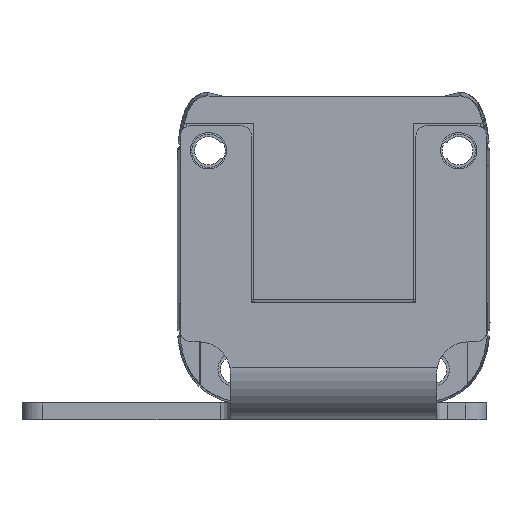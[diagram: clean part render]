
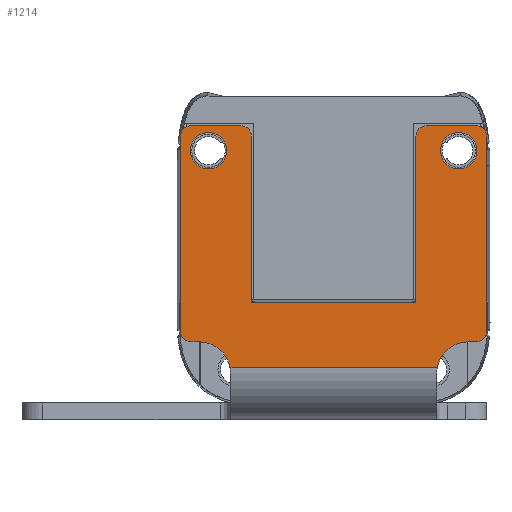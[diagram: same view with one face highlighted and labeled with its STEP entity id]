
A CAD part, front view. The second image highlights one B-rep face of the part: STEP entity #1214.
In plain terms, the highlighted planar face has unit normal (0, -1, 0).
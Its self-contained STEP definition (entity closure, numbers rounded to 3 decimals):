
#1214=ADVANCED_FACE('',(#1904,#1905,#1906),#1492,.T.);
#1492=PLANE('',#9447);
#1797=CIRCLE('',#9437,3.);
#1798=CIRCLE('',#9438,1.);
#1799=CIRCLE('',#9439,1.);
#1800=CIRCLE('',#9440,1.);
#1801=CIRCLE('',#9441,1.);
#1802=CIRCLE('',#9442,1.);
#1803=CIRCLE('',#9443,1.);
#1804=CIRCLE('',#9444,3.);
#1805=CIRCLE('',#9445,1.75);
#1806=CIRCLE('',#9446,1.75);
#1904=FACE_BOUND('',#2370,.T.);
#1905=FACE_BOUND('',#2371,.T.);
#1906=FACE_BOUND('',#2372,.T.);
#2370=EDGE_LOOP('',(#4747,#4748,#4749,#4750,#4751,#4752,#4753,#4754,#4755,
#4756,#4757,#4758,#4759,#4760,#4761,#4762,#4763,#4764));
#2371=EDGE_LOOP('',(#4765));
#2372=EDGE_LOOP('',(#4766));
#4747=ORIENTED_EDGE('',*,*,#6984,.T.);
#4748=ORIENTED_EDGE('',*,*,#6985,.F.);
#4749=ORIENTED_EDGE('',*,*,#6986,.T.);
#4750=ORIENTED_EDGE('',*,*,#6987,.T.);
#4751=ORIENTED_EDGE('',*,*,#6988,.T.);
#4752=ORIENTED_EDGE('',*,*,#6989,.T.);
#4753=ORIENTED_EDGE('',*,*,#6990,.T.);
#4754=ORIENTED_EDGE('',*,*,#6991,.F.);
#4755=ORIENTED_EDGE('',*,*,#6992,.F.);
#4756=ORIENTED_EDGE('',*,*,#6993,.T.);
#4757=ORIENTED_EDGE('',*,*,#6994,.T.);
#4758=ORIENTED_EDGE('',*,*,#6995,.F.);
#4759=ORIENTED_EDGE('',*,*,#6996,.T.);
#4760=ORIENTED_EDGE('',*,*,#6997,.F.);
#4761=ORIENTED_EDGE('',*,*,#6998,.T.);
#4762=ORIENTED_EDGE('',*,*,#6999,.T.);
#4763=ORIENTED_EDGE('',*,*,#7000,.T.);
#4764=ORIENTED_EDGE('',*,*,#7001,.T.);
#4765=ORIENTED_EDGE('',*,*,#7002,.F.);
#4766=ORIENTED_EDGE('',*,*,#7003,.T.);
#5758=VERTEX_POINT('',#15425);
#5759=VERTEX_POINT('',#15426);
#5760=VERTEX_POINT('',#15428);
#5761=VERTEX_POINT('',#15430);
#5762=VERTEX_POINT('',#15432);
#5763=VERTEX_POINT('',#15434);
#5764=VERTEX_POINT('',#15436);
#5765=VERTEX_POINT('',#15438);
#5766=VERTEX_POINT('',#15440);
#5767=VERTEX_POINT('',#15442);
#5768=VERTEX_POINT('',#15444);
#5769=VERTEX_POINT('',#15446);
#5770=VERTEX_POINT('',#15448);
#5771=VERTEX_POINT('',#15450);
#5772=VERTEX_POINT('',#15452);
#5773=VERTEX_POINT('',#15454);
#5774=VERTEX_POINT('',#15456);
#5775=VERTEX_POINT('',#15458);
#5776=VERTEX_POINT('',#15461);
#5777=VERTEX_POINT('',#15463);
#6984=EDGE_CURVE('',#5758,#5759,#1797,.T.);
#6985=EDGE_CURVE('',#5760,#5759,#7863,.T.);
#6986=EDGE_CURVE('',#5760,#5761,#1798,.T.);
#6987=EDGE_CURVE('',#5761,#5762,#7864,.T.);
#6988=EDGE_CURVE('',#5762,#5763,#1799,.T.);
#6989=EDGE_CURVE('',#5763,#5764,#7865,.T.);
#6990=EDGE_CURVE('',#5764,#5765,#1800,.T.);
#6991=EDGE_CURVE('',#5766,#5765,#7866,.T.);
#6992=EDGE_CURVE('',#5767,#5766,#7867,.T.);
#6993=EDGE_CURVE('',#5767,#5768,#7868,.T.);
#6994=EDGE_CURVE('',#5768,#5769,#1801,.T.);
#6995=EDGE_CURVE('',#5770,#5769,#7869,.T.);
#6996=EDGE_CURVE('',#5770,#5771,#1802,.T.);
#6997=EDGE_CURVE('',#5772,#5771,#7870,.T.);
#6998=EDGE_CURVE('',#5772,#5773,#1803,.T.);
#6999=EDGE_CURVE('',#5773,#5774,#7871,.T.);
#7000=EDGE_CURVE('',#5774,#5775,#1804,.T.);
#7001=EDGE_CURVE('',#5775,#5758,#7872,.T.);
#7002=EDGE_CURVE('',#5776,#5776,#1805,.T.);
#7003=EDGE_CURVE('',#5777,#5777,#1806,.T.);
#7863=LINE('',#15427,#8719);
#7864=LINE('',#15431,#8720);
#7865=LINE('',#15435,#8721);
#7866=LINE('',#15439,#8722);
#7867=LINE('',#15441,#8723);
#7868=LINE('',#15443,#8724);
#7869=LINE('',#15447,#8725);
#7870=LINE('',#15451,#8726);
#7871=LINE('',#15455,#8727);
#7872=LINE('',#15459,#8728);
#8719=VECTOR('',#11638,1.);
#8720=VECTOR('',#11641,1.);
#8721=VECTOR('',#11644,1.);
#8722=VECTOR('',#11647,1.);
#8723=VECTOR('',#11648,1.);
#8724=VECTOR('',#11649,1.);
#8725=VECTOR('',#11652,1.);
#8726=VECTOR('',#11655,1.);
#8727=VECTOR('',#11658,1.);
#8728=VECTOR('',#11661,1.);
#9437=AXIS2_PLACEMENT_3D('',#15424,#11636,#11637);
#9438=AXIS2_PLACEMENT_3D('',#15429,#11639,#11640);
#9439=AXIS2_PLACEMENT_3D('',#15433,#11642,#11643);
#9440=AXIS2_PLACEMENT_3D('',#15437,#11645,#11646);
#9441=AXIS2_PLACEMENT_3D('',#15445,#11650,#11651);
#9442=AXIS2_PLACEMENT_3D('',#15449,#11653,#11654);
#9443=AXIS2_PLACEMENT_3D('',#15453,#11656,#11657);
#9444=AXIS2_PLACEMENT_3D('',#15457,#11659,#11660);
#9445=AXIS2_PLACEMENT_3D('',#15460,#11662,#11663);
#9446=AXIS2_PLACEMENT_3D('',#15462,#11664,#11665);
#9447=AXIS2_PLACEMENT_3D('',#15464,#11666,#11667);
#11636=DIRECTION('',(0.,1.,0.));
#11637=DIRECTION('',(0.,0.,1.));
#11638=DIRECTION('',(-1.,0.,0.));
#11639=DIRECTION('',(0.,-1.,0.));
#11640=DIRECTION('',(0.,0.,1.));
#11641=DIRECTION('',(0.,0.,1.));
#11642=DIRECTION('',(0.,-1.,0.));
#11643=DIRECTION('',(0.,0.,-1.));
#11644=DIRECTION('',(-1.,0.,0.));
#11645=DIRECTION('',(0.,-1.,0.));
#11646=DIRECTION('',(0.,0.,-1.));
#11647=DIRECTION('',(0.,0.,1.));
#11648=DIRECTION('',(1.,0.,0.));
#11649=DIRECTION('',(0.,0.,1.));
#11650=DIRECTION('',(0.,-1.,0.));
#11651=DIRECTION('',(0.,0.,1.));
#11652=DIRECTION('',(1.,0.,0.));
#11653=DIRECTION('',(0.,-1.,0.));
#11654=DIRECTION('',(0.,0.,1.));
#11655=DIRECTION('',(0.,0.,1.));
#11656=DIRECTION('',(0.,-1.,0.));
#11657=DIRECTION('',(0.,0.,1.));
#11658=DIRECTION('',(1.,0.,0.));
#11659=DIRECTION('',(0.,1.,0.));
#11660=DIRECTION('',(0.,0.,1.));
#11661=DIRECTION('',(1.,0.,0.));
#11662=DIRECTION('',(0.,-1.,0.));
#11663=DIRECTION('',(0.,0.,1.));
#11664=DIRECTION('',(0.,1.,0.));
#11665=DIRECTION('',(0.,0.,-1.));
#11666=DIRECTION('',(0.,-1.,0.));
#11667=DIRECTION('',(-1.,0.,0.));
#15424=CARTESIAN_POINT('',(12.89,45.8,-139.533));
#15425=CARTESIAN_POINT('',(9.939,45.8,-138.994));
#15426=CARTESIAN_POINT('',(12.89,45.8,-136.533));
#15427=CARTESIAN_POINT('',(-7.89,45.8,-136.533));
#15428=CARTESIAN_POINT('',(13.69,45.8,-136.533));
#15429=CARTESIAN_POINT('',(13.69,45.8,-135.533));
#15430=CARTESIAN_POINT('',(14.69,45.8,-135.533));
#15431=CARTESIAN_POINT('',(14.69,45.8,-115.6));
#15432=CARTESIAN_POINT('',(14.69,45.8,-116.8));
#15433=CARTESIAN_POINT('',(13.69,45.8,-116.8));
#15434=CARTESIAN_POINT('',(13.69,45.8,-115.8));
#15435=CARTESIAN_POINT('',(7.89,45.8,-115.8));
#15436=CARTESIAN_POINT('',(8.89,45.8,-115.8));
#15437=CARTESIAN_POINT('',(8.89,45.8,-116.8));
#15438=CARTESIAN_POINT('',(7.89,45.8,-116.8));
#15439=CARTESIAN_POINT('',(7.89,45.8,-115.6));
#15440=CARTESIAN_POINT('',(7.89,45.8,-132.733));
#15441=CARTESIAN_POINT('',(-9.89,45.8,-132.733));
#15442=CARTESIAN_POINT('',(-7.89,45.8,-132.733));
#15443=CARTESIAN_POINT('',(-7.89,45.8,-115.6));
#15444=CARTESIAN_POINT('',(-7.89,45.8,-116.8));
#15445=CARTESIAN_POINT('',(-8.89,45.8,-116.8));
#15446=CARTESIAN_POINT('',(-8.89,45.8,-115.8));
#15447=CARTESIAN_POINT('',(-7.89,45.8,-115.8));
#15448=CARTESIAN_POINT('',(-13.69,45.8,-115.8));
#15449=CARTESIAN_POINT('',(-13.69,45.8,-116.8));
#15450=CARTESIAN_POINT('',(-14.69,45.8,-116.8));
#15451=CARTESIAN_POINT('',(-14.69,45.8,-115.6));
#15452=CARTESIAN_POINT('',(-14.69,45.8,-135.533));
#15453=CARTESIAN_POINT('',(-13.69,45.8,-135.533));
#15454=CARTESIAN_POINT('',(-13.69,45.8,-136.533));
#15455=CARTESIAN_POINT('',(-7.89,45.8,-136.533));
#15456=CARTESIAN_POINT('',(-12.89,45.8,-136.533));
#15457=CARTESIAN_POINT('',(-12.89,45.8,-139.533));
#15458=CARTESIAN_POINT('',(-9.939,45.8,-138.994));
#15459=CARTESIAN_POINT('',(-9.89,45.8,-138.994));
#15460=CARTESIAN_POINT('',(-12.,45.8,-118.2));
#15461=CARTESIAN_POINT('',(-12.,45.8,-116.45));
#15462=CARTESIAN_POINT('',(12.,45.8,-118.2));
#15463=CARTESIAN_POINT('',(12.,45.8,-119.95));
#15464=CARTESIAN_POINT('',(-9.89,45.8,-142.394));
